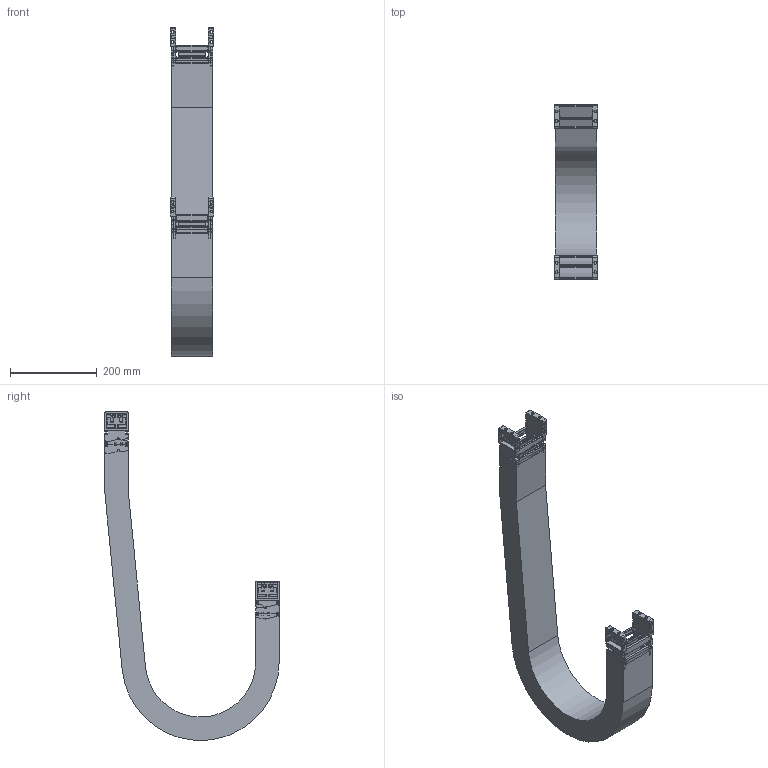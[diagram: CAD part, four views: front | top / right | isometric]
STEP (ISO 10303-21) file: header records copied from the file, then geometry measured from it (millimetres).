
FILE_DESCRIPTION((''),'2;1');
FILE_NAME('KST-40075-150_ASM','2017-12-06T',('KUNI004K'),(''),'PRO/ENGINEER BY PARAMETRIC TECHNOLOGY CORPORATION, 2015200','PRO/ENGINEER BY PARAMETRIC TECHNOLOGY CORPORATION, 2015200','');
FILE_SCHEMA(('AUTOMOTIVE_DESIGN { 1 0 10303 214 1 1 1 1 }'));
Length unit declared in the file: millimetre
Products named in the file (13): 40FBR; 40FBL; 40075C; KST40FB_W075_ASM; KST40150R; KST40150L; 40075H; KST40075-150_1_ASM; KST40075_R150_BODY; 40MBR; 40MBL; KST40MB_W075_ASM; KST-40075-150_ASM
Assembly tree (19 placements, depth 3):
  KST-40075-150_ASM
    KST40FB_W075_ASM
      40FBR
      40FBL
      40075C  x2
    KST40075-150_1_ASM  x2
      KST40150R
      KST40150L
      40075C
      40075H
    KST40075_R150_BODY
    KST40MB_W075_ASM
      40MBR
      40MBL
      40075C  x2
Bounding box: 101 x 401 x 756.33 mm (x, y, z)
Volume: 2492645.8 mm3; surface area: 872448.7 mm2
Topology: 21 solids, 21 shells, 2696 faces, 7342 edges, 4716 vertices
Faces by surface type: plane 1398, cylinder 930, bspline 300, torus 68
Entity records: 66982 total; most frequent: CARTESIAN_POINT 13855, ORIENTED_EDGE 7128, DIRECTION 6460, PRESENTATION_STYLE_ASSIGNMENT 4864, STYLED_ITEM 4864, CURVE_STYLE 3564, EDGE_CURVE 3564, VERTEX_POINT 2304
